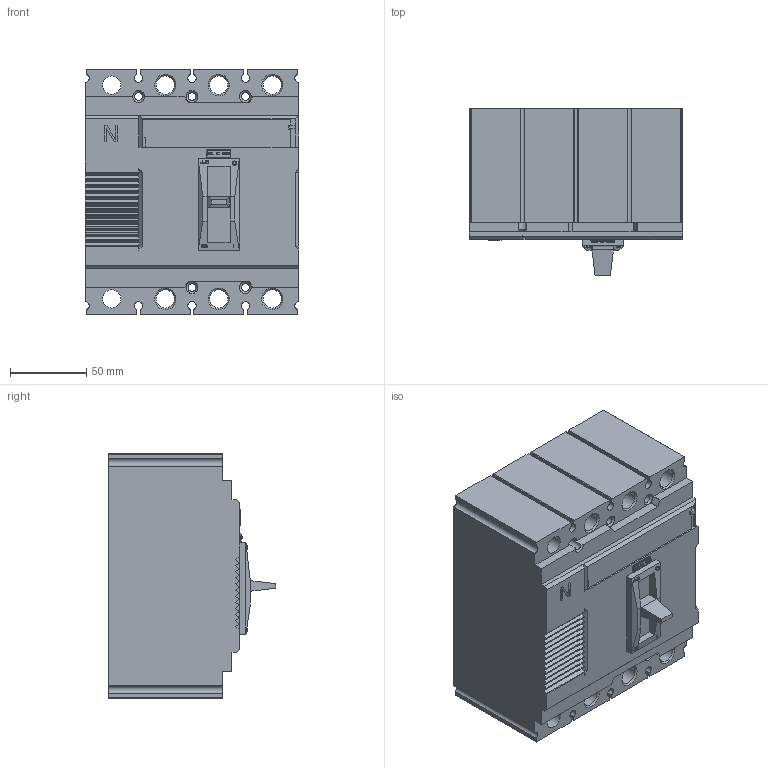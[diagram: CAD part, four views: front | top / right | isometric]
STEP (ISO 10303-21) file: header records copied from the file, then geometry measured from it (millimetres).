
FILE_DESCRIPTION(/* description */ ('','CAx-IF Rec.Pracs.---Representation and Presentation of Product Manufacturing Information (PMI)---3.8---2014-02-18'),/* implementation_level */ '2;1');
FILE_NAME(/* name */ 'E:\3D model\38-susol-mccb-250af-iec-4pr.stp',/* time_stamp */ '2017-11-09T14:51:05+03:00',/* author */ ('dobrin'),/* organization */ (''),/* preprocessor_version */ 'ST-DEVELOPER v16.13',/* originating_system */ 'Autodesk Inventor 2018',/* authorisation */ '');
FILE_SCHEMA (('AP242_MANAGED_MODEL_BASED_3D_ENGINEERING_MIM_LF { 1 0 10303 442 1 1 4 }'));
Length unit declared in the file: metre
Products named in the file (1): 38-susol-mccb-250af-iec-4pr
Bounding box: 140 x 109.7 x 160 mm (x, y, z)
Volume: 1760476.5 mm3; surface area: 133728 mm2
Topology: 1 solids, 1 shells, 624 faces, 1747 edges, 1152 vertices
Faces by surface type: plane 548, cylinder 64, cone 12
Full cylindrical faces by diameter (mm): 2 x1, 3 x1, 5.2 x5, 12 x8
Entity records: 19662 total; most frequent: CARTESIAN_POINT 3490, ORIENTED_EDGE 3410, DIRECTION 3130, EDGE_CURVE 1705, LINE 1564, VECTOR 1564, VERTEX_POINT 1135, AXIS2_PLACEMENT_3D 787
